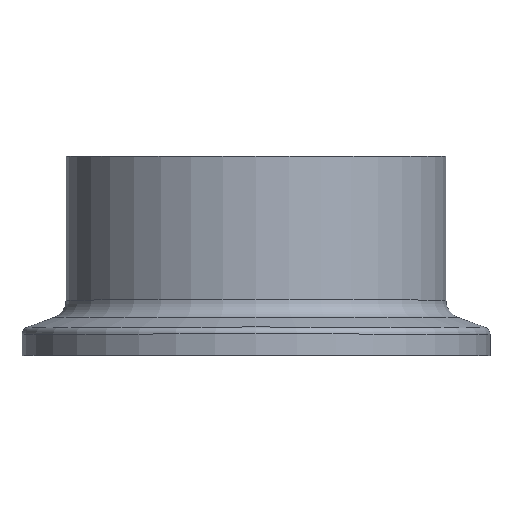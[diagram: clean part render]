
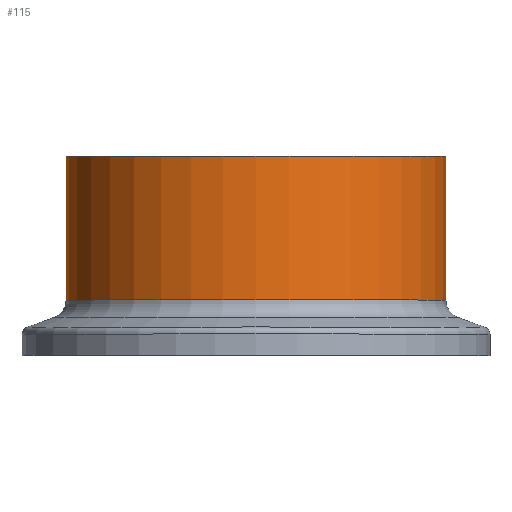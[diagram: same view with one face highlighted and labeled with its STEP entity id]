
A CAD part, top view. The second image highlights one B-rep face of the part: STEP entity #115.
In plain terms, the highlighted cylindrical face has radius 20.5 mm (diameter 41 mm), a full revolution.
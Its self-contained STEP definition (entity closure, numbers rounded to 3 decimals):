
#73=CARTESIAN_POINT('',(20.5,21.5,0.0));
#74=VERTEX_POINT('',#73);
#75=CARTESIAN_POINT('',(0.0,21.5,0.0));
#76=DIRECTION('',(0.0,-1.0,0.0));
#77=DIRECTION('',(1.0,0.0,0.0));
#78=AXIS2_PLACEMENT_3D('',#75,#76,#77);
#79=CIRCLE('',#78,20.5);
#80=EDGE_CURVE('',#74,#74,#79,.T.);
#96=CARTESIAN_POINT('',(0.0,13.74,0.0));
#97=DIRECTION('',(0.0,-1.0,0.0));
#98=DIRECTION('',(1.0,0.0,0.0));
#99=AXIS2_PLACEMENT_3D('',#96,#97,#98);
#100=CYLINDRICAL_SURFACE('',#99,20.5);
#101=CARTESIAN_POINT('',(20.5,5.979,0.0));
#102=VERTEX_POINT('',#101);
#103=CARTESIAN_POINT('',(0.0,5.979,0.0));
#104=DIRECTION('',(0.0,-1.0,0.0));
#105=DIRECTION('',(1.0,0.0,0.0));
#106=AXIS2_PLACEMENT_3D('',#103,#104,#105);
#107=CIRCLE('',#106,20.5);
#108=EDGE_CURVE('',#102,#102,#107,.T.);
#109=ORIENTED_EDGE('',*,*,#108,.F.);
#110=EDGE_LOOP('',(#109));
#111=FACE_OUTER_BOUND('',#110,.T.);
#112=ORIENTED_EDGE('',*,*,#80,.T.);
#113=EDGE_LOOP('',(#112));
#114=FACE_BOUND('',#113,.T.);
#115=ADVANCED_FACE('',(#111,#114),#100,.T.);
